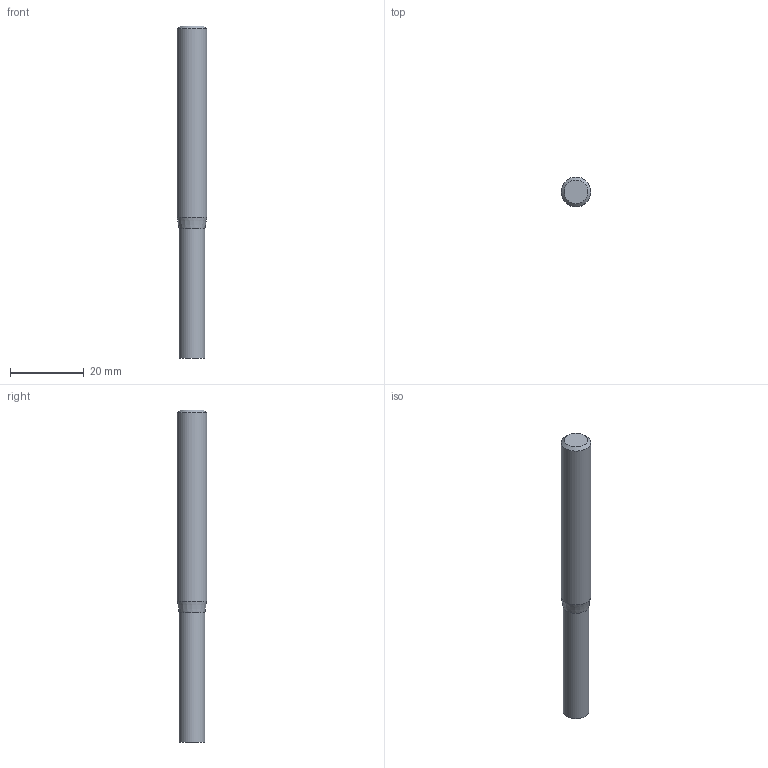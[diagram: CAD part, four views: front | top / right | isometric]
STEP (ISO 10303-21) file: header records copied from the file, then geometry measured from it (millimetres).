
FILE_DESCRIPTION((''),'2;1');
FILE_NAME('C:\Users\nsx150\AppData\Local\Temp\Mastercam 2021\W9Z147XDNF\TEMP.step','2021-04-08T14:49:48',(''),(''),'STEP Write','Mastercam 2021 ... CNC Software, Inc.','');
FILE_SCHEMA(('AUTOMOTIVE_DESIGN'));
Length unit declared in the file: millimetre
Products named in the file (1): None
Bounding box: 8 x 8 x 90 mm (x, y, z)
Volume: 4085 mm3; surface area: 2301.1 mm2
Topology: 2 solids, 2 shells, 8 faces, 10 edges, 6 vertices
Faces by surface type: plane 4, cylinder 2, cone 2
Full cylindrical faces by diameter (mm): 7 x1, 8 x1
Entity records: 190 total; most frequent: DIRECTION 32, CARTESIAN_POINT 22, AXIS2_PLACEMENT_3D 16, ORIENTED_EDGE 12, EDGE_LOOP 12, STYLED_ITEM 11, ADVANCED_FACE 8, VERTEX_POINT 6
